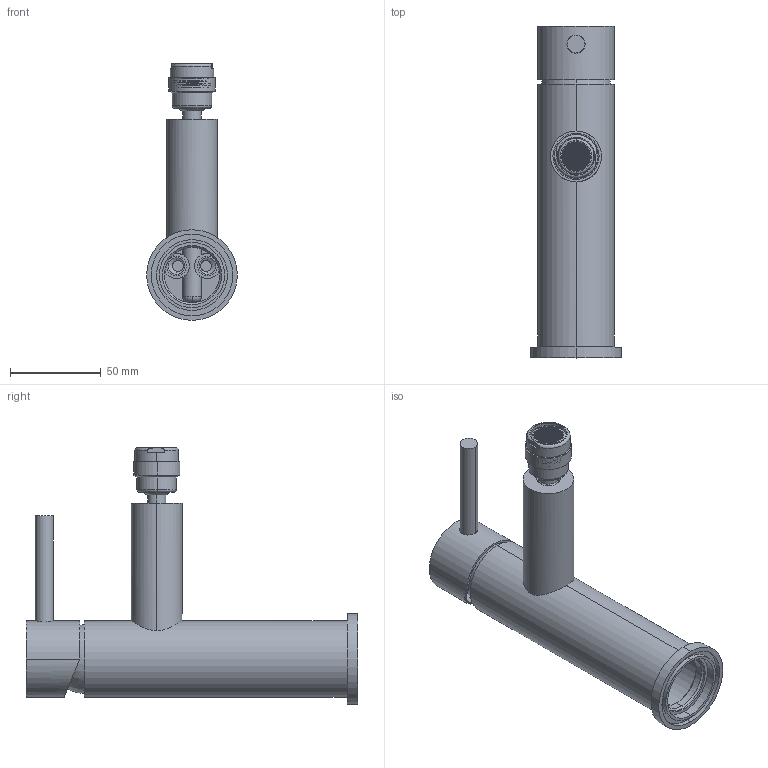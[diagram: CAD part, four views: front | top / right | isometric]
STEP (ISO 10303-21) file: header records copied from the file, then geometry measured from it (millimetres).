
FILE_DESCRIPTION (( 'STEP AP214' ), '1' );
FILE_NAME ('Y5520T.STEP', '2021-02-23T06:42:05', ( '微软用户' ), ( '微软中国' ), 'SwSTEP 2.0', 'SolidWorks 2014', '' );
FILE_SCHEMA (( 'AUTOMOTIVE_DESIGN' ));
Length unit declared in the file: millimetre
Products named in the file (15): 產薛髓褐諉芛; Y5520T菁遠; 炵蹈媼笢郋; 炵蹈媼翋极; Y5520T; 9103忒謫裝ㄗ35郋ㄘ; 9103忒梟(35郋); M32X1.25装饰杯（塑料）; M37X1.25两级压盖（新）; D35P; 24厙郋; 24厙郲杶; M24X1两级网嘴胶圈; 厙郲⑩釱(俋挴)141; 炵蹈媼堤阨擋
Assembly tree (14 placements, depth 2):
  Y5520T
    炵蹈媼翋极
    炵蹈媼笢郋
    Y5520T菁遠
    產薛髓褐諉芛
    炵蹈媼堤阨擋
    厙郲⑩釱(俋挴)141
    M24X1两级网嘴胶圈
    24厙郲杶
    24厙郋
    D35P
    M37X1.25两级压盖（新）
    M32X1.25装饰杯（塑料）
    9103忒梟(35郋)
    9103忒謫裝ㄗ35郋ㄘ
Bounding box: 50 x 183 x 141.6 mm (x, y, z)
Volume: 120553.3 mm3; surface area: 98510.8 mm2
Topology: 13 solids, 16 shells, 2753 faces, 10478 edges, 6953 vertices
Faces by surface type: plane 1564, cylinder 1071, cone 71, torus 24, bspline 21, sphere 2
Entity records: 147636 total; most frequent: CARTESIAN_POINT 62020, ORIENTED_EDGE 20902, DIRECTION 14142, EDGE_CURVE 10453, VERTEX_POINT 6941, VECTOR 4978, LINE 4978, AXIS2_PLACEMENT_3D 4582
